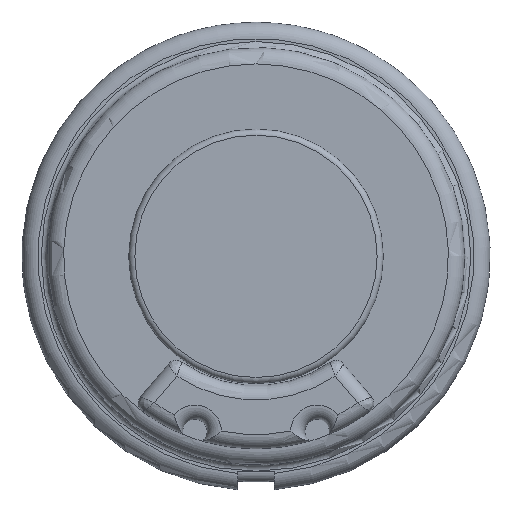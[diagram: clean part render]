
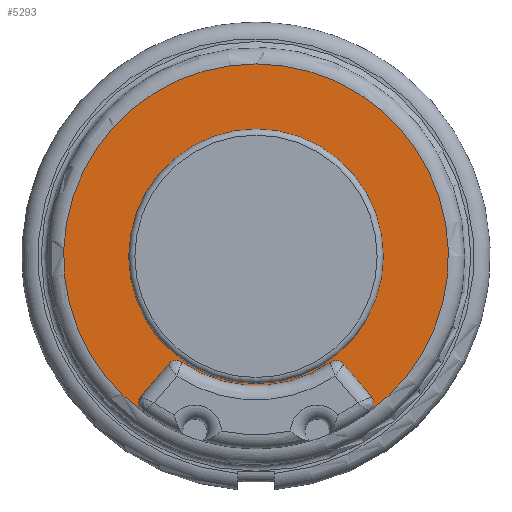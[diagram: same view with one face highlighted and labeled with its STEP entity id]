
A CAD part, front view. The second image highlights one B-rep face of the part: STEP entity #5293.
In plain terms, the highlighted planar face has unit normal (0, -1, 0).
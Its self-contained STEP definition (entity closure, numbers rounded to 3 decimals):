
#588=CARTESIAN_POINT('',(5.577,2.3,-7.629));
#589=VERTEX_POINT('',#588);
#723=CARTESIAN_POINT('',(4.305,2.3,-5.293));
#724=VERTEX_POINT('',#723);
#731=CARTESIAN_POINT('',(3.637,2.3,-5.206));
#732=VERTEX_POINT('',#731);
#733=CARTESIAN_POINT('',(3.923,2.3,-5.615));
#734=DIRECTION('',(0.0,1.0,0.0));
#735=DIRECTION('',(0.13,0.0,0.992));
#736=AXIS2_PLACEMENT_3D('',#733,#734,#735);
#737=CIRCLE('',#736,0.5);
#738=EDGE_CURVE('',#724,#732,#737,.F.);
#755=CARTESIAN_POINT('',(5.664,2.3,-6.903));
#756=VERTEX_POINT('',#755);
#763=CARTESIAN_POINT('',(4.305,2.3,-5.293));
#764=DIRECTION('',(0.645,0.0,-0.764));
#765=VECTOR('',#764,2.107);
#766=LINE('',#763,#765);
#767=EDGE_CURVE('',#724,#756,#766,.T.);
#780=CARTESIAN_POINT('',(5.282,2.3,-7.225));
#781=DIRECTION('',(0.0,1.0,0.0));
#782=DIRECTION('',(0.993,0.0,-0.119));
#783=AXIS2_PLACEMENT_3D('',#780,#781,#782);
#784=CIRCLE('',#783,0.5);
#785=EDGE_CURVE('',#756,#589,#784,.T.);
#1081=CARTESIAN_POINT('',(-3.637,2.3,-5.206));
#1082=VERTEX_POINT('',#1081);
#1083=CARTESIAN_POINT('',(0.0,2.3,0.0));
#1084=DIRECTION('',(0.0,-1.0,0.0));
#1085=DIRECTION('',(0.63,0.0,0.777));
#1086=AXIS2_PLACEMENT_3D('',#1083,#1084,#1085);
#1087=CIRCLE('',#1086,6.35);
#1088=EDGE_CURVE('',#1082,#732,#1087,.T.);
#1106=CARTESIAN_POINT('',(-4.305,2.3,-5.293));
#1107=VERTEX_POINT('',#1106);
#1108=CARTESIAN_POINT('',(-3.923,2.3,-5.615));
#1109=DIRECTION('',(0.0,1.,0.0));
#1110=DIRECTION('',(-0.13,0.0,0.992));
#1111=AXIS2_PLACEMENT_3D('',#1108,#1109,#1110);
#1112=CIRCLE('',#1111,0.5);
#1113=EDGE_CURVE('',#1082,#1107,#1112,.F.);
#1131=CARTESIAN_POINT('',(-5.664,2.3,-6.903));
#1132=VERTEX_POINT('',#1131);
#1133=CARTESIAN_POINT('',(-5.664,2.3,-6.903));
#1134=DIRECTION('',(0.645,0.0,0.764));
#1135=VECTOR('',#1134,2.107);
#1136=LINE('',#1133,#1135);
#1137=EDGE_CURVE('',#1132,#1107,#1136,.T.);
#1155=CARTESIAN_POINT('',(-5.577,2.3,-7.629));
#1156=VERTEX_POINT('',#1155);
#1157=CARTESIAN_POINT('',(-5.282,2.3,-7.225));
#1158=DIRECTION('',(0.0,1.0,0.0));
#1159=DIRECTION('',(-0.993,0.0,-0.119));
#1160=AXIS2_PLACEMENT_3D('',#1157,#1158,#1159);
#1161=CIRCLE('',#1160,0.5);
#1162=EDGE_CURVE('',#1156,#1132,#1161,.T.);
#5167=CARTESIAN_POINT('',(6.25,2.3,0.0));
#5168=VERTEX_POINT('',#5167);
#5169=CARTESIAN_POINT('',(0.0,2.3,0.0));
#5170=DIRECTION('',(0.0,-1.0,0.0));
#5171=DIRECTION('',(1.0,0.0,0.0));
#5172=AXIS2_PLACEMENT_3D('',#5169,#5170,#5171);
#5173=CIRCLE('',#5172,6.25);
#5174=EDGE_CURVE('',#5168,#5168,#5173,.T.);
#5260=CARTESIAN_POINT('',(0.0,2.3,0.0));
#5261=DIRECTION('',(0.0,1.0,0.0));
#5262=DIRECTION('',(-1.0,0.0,0.0));
#5263=AXIS2_PLACEMENT_3D('',#5260,#5261,#5262);
#5264=CIRCLE('',#5263,9.45);
#5265=EDGE_CURVE('',#1156,#589,#5264,.T.);
#5275=CARTESIAN_POINT('',(8.25,2.3,0.0));
#5276=DIRECTION('',(0.0,-1.0,0.0));
#5277=DIRECTION('',(0.0,0.0,-1.0));
#5278=AXIS2_PLACEMENT_3D('',#5275,#5276,#5277);
#5279=PLANE('',#5278);
#5280=ORIENTED_EDGE('',*,*,#767,.T.);
#5281=ORIENTED_EDGE('',*,*,#785,.T.);
#5282=ORIENTED_EDGE('',*,*,#5265,.F.);
#5283=ORIENTED_EDGE('',*,*,#1162,.T.);
#5284=ORIENTED_EDGE('',*,*,#1137,.T.);
#5285=ORIENTED_EDGE('',*,*,#1113,.F.);
#5286=ORIENTED_EDGE('',*,*,#1088,.T.);
#5287=ORIENTED_EDGE('',*,*,#738,.F.);
#5288=EDGE_LOOP('',(#5280,#5281,#5282,#5283,#5284,#5285,#5286,#5287));
#5289=FACE_OUTER_BOUND('',#5288,.T.);
#5290=ORIENTED_EDGE('',*,*,#5174,.F.);
#5291=EDGE_LOOP('',(#5290));
#5292=FACE_BOUND('',#5291,.T.);
#5293=ADVANCED_FACE('',(#5289,#5292),#5279,.T.);
